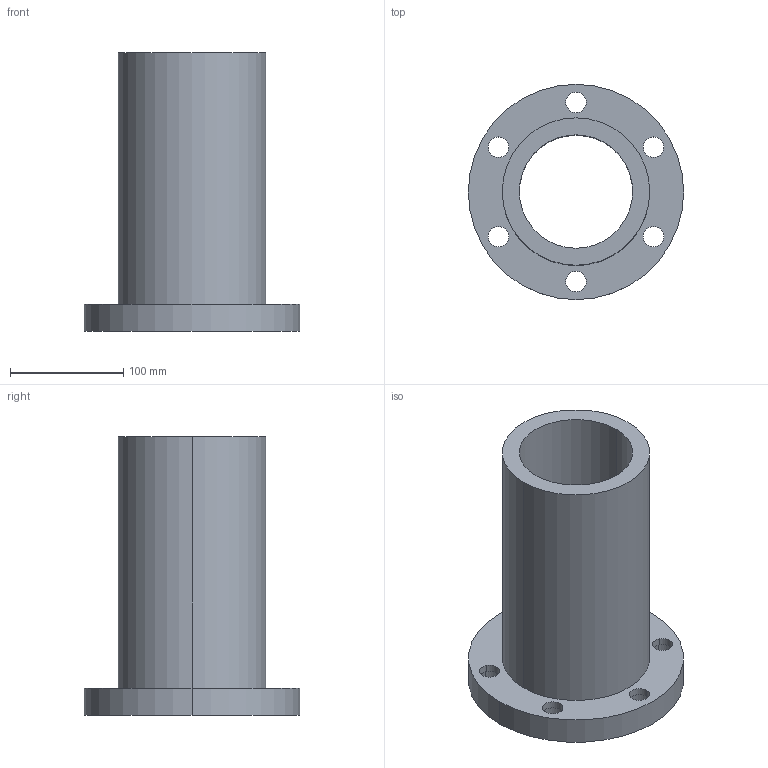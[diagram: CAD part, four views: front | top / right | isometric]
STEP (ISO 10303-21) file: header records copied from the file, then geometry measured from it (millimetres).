
FILE_DESCRIPTION((''),'2;1');
FILE_NAME('100-12T6','2008-04-05T',('cmliu'),(''),'PRO/ENGINEER BY PARAMETRIC TECHNOLOGY CORPORATION, 2004110','PRO/ENGINEER BY PARAMETRIC TECHNOLOGY CORPORATION, 2004110','');
FILE_SCHEMA(('CONFIG_CONTROL_DESIGN'));
Length unit declared in the file: millimetre
Products named in the file (1): 100-12T6
Bounding box: 190 x 190 x 246 mm (x, y, z)
Volume: 1629374.5 mm3; surface area: 231001.3 mm2
Topology: 1 solids, 1 shells, 39 faces, 98 edges, 68 vertices
Faces by surface type: cylinder 30, plane 9
Entity records: 1290 total; most frequent: DIRECTION 244, CARTESIAN_POINT 205, ORIENTED_EDGE 196, AXIS2_PLACEMENT_3D 107, EDGE_CURVE 98, VERTEX_POINT 68, CIRCLE 68, EDGE_LOOP 60
